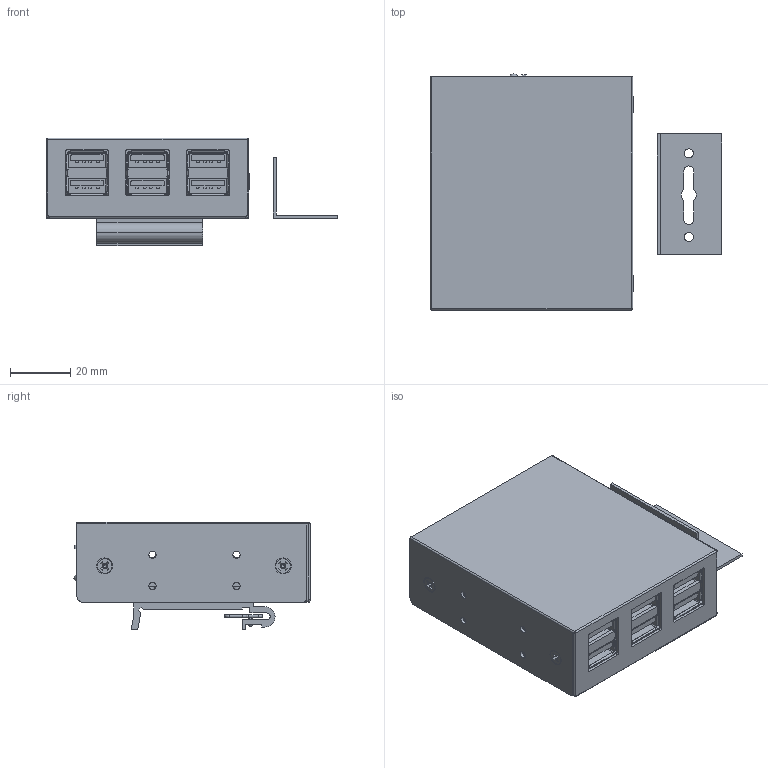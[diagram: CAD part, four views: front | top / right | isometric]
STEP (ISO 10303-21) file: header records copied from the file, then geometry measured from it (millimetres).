
FILE_DESCRIPTION(('FreeCAD Model'),'2;1');
FILE_NAME('Open CASCADE Shape Model','2025-11-14T07:51:53',(''),(''), 'Open CASCADE STEP processor 7.8','FreeCAD','Unknown');
FILE_SCHEMA(('AUTOMOTIVE_DESIGN { 1 0 10303 214 1 1 1 1 }'));
Length unit declared in the file: millimetre
Products named in the file (29): EX_11246HMS_3D; Wallmount-Kit; 11246HMS_pcb#002; 1; Jack_DC_2.1mm_PCB; 8971054; 1801.1031_led; usb3_a-usb3_b; usb_3_a-usb3_a-2p#003; usb_3_a-usb3_a-2p#002; usb_3_a-usb3_a-2p#001; M2x5-Schraube; 11246HMS_pcb; M2x5-Schraube001; M2x5-Schraube002; M2x5-Schraube003; M3x5-Schraube002; M3x5-Schraube001; M3x5-Schraube004; M3x5-Schraube003; Case_down_11246HMS; Case_up_11246HMS; Din_Rail_Kit_TIVECO_2; dineniso7046-2m3x48_8h1#001; dineniso7046-2m3x48_8h1#002; dineniso7046-2m3x48_8h1#003; dineniso7046-2m3x48_8h1#004; Wire; DIN-Rail-Kit001
Assembly tree (28 placements, depth 3):
  EX_11246HMS_3D
    Wallmount-Kit
    11246HMS_pcb#002
    1
    Jack_DC_2.1mm_PCB
    8971054
    1801.1031_led
    usb3_a-usb3_b
    usb_3_a-usb3_a-2p#003
    usb_3_a-usb3_a-2p#002
    usb_3_a-usb3_a-2p#001
    M2x5-Schraube
    11246HMS_pcb
    M2x5-Schraube001
    M2x5-Schraube002
    M2x5-Schraube003
    M3x5-Schraube002
    M3x5-Schraube001
    M3x5-Schraube004
    M3x5-Schraube003
    Case_down_11246HMS
    Case_up_11246HMS
    Din_Rail_Kit_TIVECO_2
      dineniso7046-2m3x48_8h1#001
      dineniso7046-2m3x48_8h1#002
      dineniso7046-2m3x48_8h1#003
      dineniso7046-2m3x48_8h1#004
      Wire
      DIN-Rail-Kit001
Bounding box: 96.55 x 78.08 x 35.67 mm (x, y, z)
Volume: 45902.1 mm3; surface area: 74623.2 mm2
Topology: 27 solids, 27 shells, 2967 faces, 8217 edges, 5401 vertices
Faces by surface type: plane 2188, cylinder 659, cone 78, torus 26, sphere 9, offset 4, bspline 2, revolution 1
Full cylindrical faces by diameter (mm): 1 x9, 1.5 x3, 2 x13, 2.4 x12, 2.6 x4, 2.7 x4, 3 x8, 3.2 x8, 4 x17, 5.3 x4, 6 x1
Entity records: 104297 total; most frequent: CARTESIAN_POINT 19157, ORIENTED_EDGE 16406, DIRECTION 15854, EDGE_CURVE 8203, LINE 6119, VECTOR 6119, VERTEX_POINT 5401, AXIS2_PLACEMENT_3D 4867
